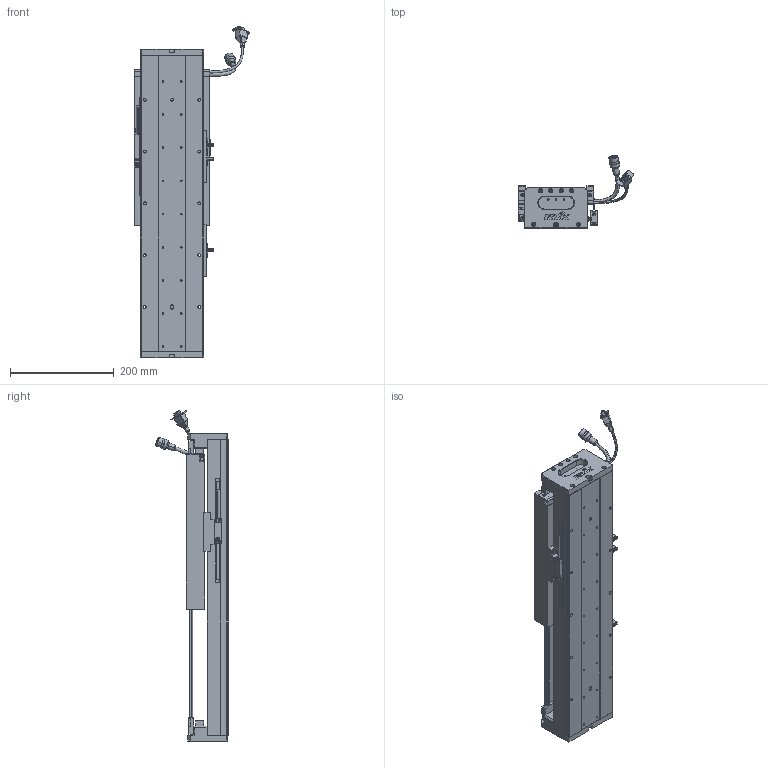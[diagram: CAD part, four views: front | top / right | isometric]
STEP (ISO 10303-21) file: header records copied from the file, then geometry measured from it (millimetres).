
FILE_DESCRIPTION (( 'STEP AP203' ), '1' );
FILE_NAME ('Z4-RY120D-1-L500-B-K.SLDASM_0200.step', '2021-05-17T06:05:44', ( '盈信电脑' ), ( '东莞市道滘镇水果街19号' ), 'SwSTEP 2.0', 'SolidWorks 2016', '' );
FILE_SCHEMA (( 'CONFIG_CONTROL_DESIGN' ));
Length unit declared in the file: millimetre
Products named in the file (37): 080黍杅芛假蚾釱21遴; SCALE; HOLDER0; HARNESS; Z-RY120D詩湍狟揤裔; SEAL-Part-1; SEAL; Z4-RY120铝滑块（21款）; PBU_SHEET; SHIELDPLATE; 140雄赽晤鎢ん堤盄; 120-Z-臏賑輸盄裔(21遴); SCREW-M1.6-1; Z4-RY120-L500詩湍100mm遵_0200; SCREW-M1.6-2; 140蚥薯蝶輸; HARNESS-Part-2; SCREW-M1.7; SCALE-Part-2; 覜茼ん672; LABEL; 榋妏寠巭燃_暯_M2_2; SCREW-M1.6; COVER-Part-1; Z4-RY120D-1-L500-B-K.SLDASM_0200; SCREW-M1.6-3; COVER; SCALE-Part-1; LABEL-Part-1; Z-RY120D詩湍奻揤裔; 672嫖萇羲壽假蚾釱; HARNESS-Part-1; PSLH080_PSLF2; Z4-RY120-500-倰第菁釱_0200; RY100FB-遵嫖萇覜茼え; Z-120詩湍傷裔啣; SCREW-M1.7-1
Assembly tree (43 placements, depth 4):
  Z4-RY120D-1-L500-B-K.SLDASM_0200
    Z4-RY120-500-倰第菁釱_0200
    覜茼ん672  x3
    672嫖萇羲壽假蚾釱  x2
    Z4-RY120铝滑块（21款）
    PSLH080_PSLF2
      SCALE
        SCALE-Part-1
        SCALE-Part-2
      HARNESS
        HARNESS-Part-1
        HARNESS-Part-2
      LABEL
        LABEL-Part-1
      COVER
        COVER-Part-1
      SEAL
        SEAL-Part-1
      榋妏寠巭燃_暯_M2_2
      SHIELDPLATE
      SCREW-M1.7
      SCREW-M1.7-1
      PBU_SHEET
      SCREW-M1.6
      SCREW-M1.6-1
      SCREW-M1.6-2
      SCREW-M1.6-3
      HOLDER0
    080黍杅芛假蚾釱21遴
    120-Z-臏賑輸盄裔(21遴)
    140雄赽晤鎢ん堤盄
    140蚥薯蝶輸  x2
    RY100FB-遵嫖萇覜茼え
    Z-120詩湍傷裔啣  x2
    Z-RY120D詩湍奻揤裔  x2
    Z-RY120D詩湍狟揤裔  x2
    Z4-RY120-L500詩湍100mm遵_0200
Bounding box: 222.88 x 140.94 x 639 mm (x, y, z)
Volume: 2359588 mm3; surface area: 722670.3 mm2
Topology: 38 solids, 38 shells, 2549 faces, 6718 edges, 4242 vertices
Faces by surface type: cylinder 1096, plane 1081, cone 250, torus 69, bspline 53
Entity records: 72561 total; most frequent: CARTESIAN_POINT 17778, DIRECTION 10682, ORIENTED_EDGE 10460, EDGE_CURVE 5230, AXIS2_PLACEMENT_3D 3896, VERTEX_POINT 3362, LINE 2890, VECTOR 2890
